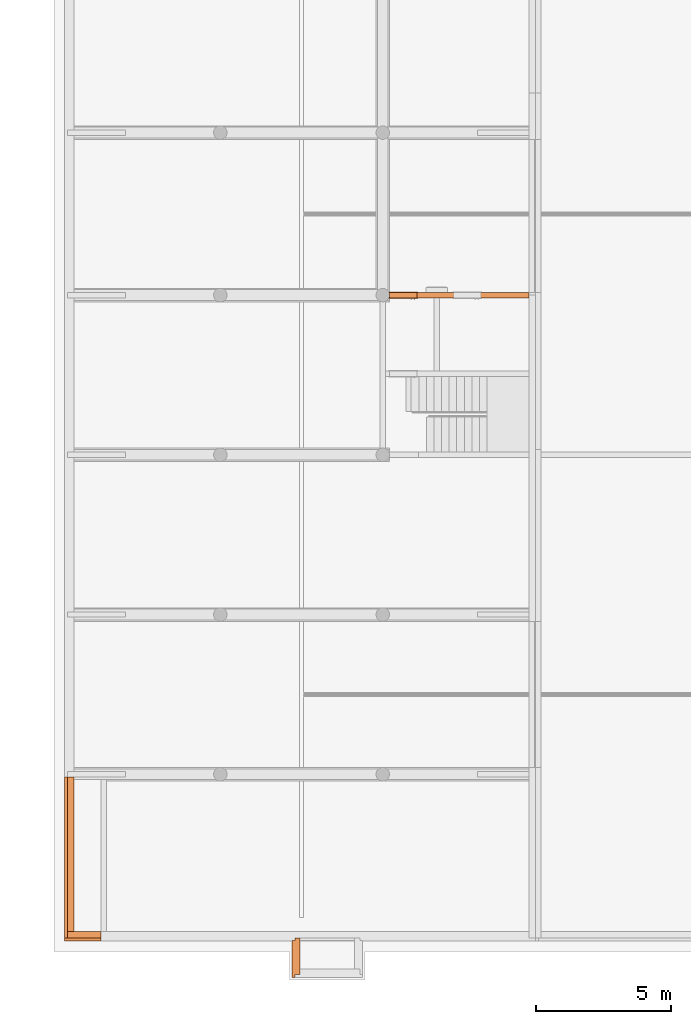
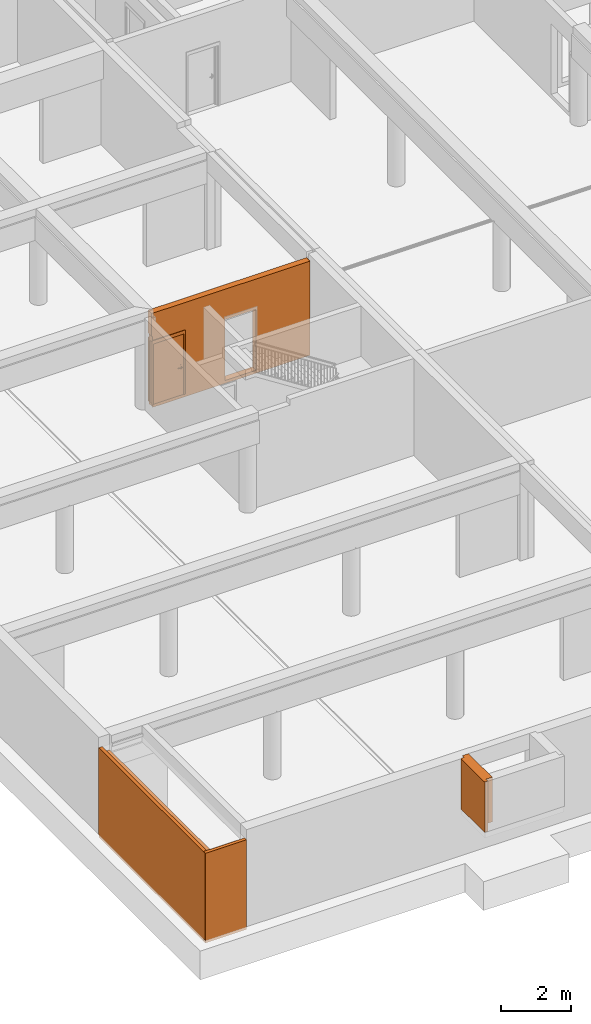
# One storey, part 21 of 25: 5 proxies, 2 openings.
"""IFC2X3 building model written with IfcOpenShell, lengths in millimetres."""

from ifc_helpers import new_model, entity, si_unit, converted_unit, derived_unit, money_unit, direction, frame, origin_with_axes, origin_2d_with_axis, place, context, subcontext, project, spatial, rectangle, extrude, open_shell, faceted_brep, surface_model, source, transform, mapped, material, material_list, type_object, element, fill, save


model = new_model("IFC2X3")

# Units and contexts
model_context = context("Model", 3, precision=0.01, world=origin_with_axes(), true_north=direction((0.34421633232, 0.938890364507)))
body_context = subcontext(model_context, "Body", "Model", "MODEL_VIEW")
ifc_project = project(units=[si_unit("LENGTHUNIT", "METRE", prefix="MILLI"), si_unit("AREAUNIT", "SQUARE_METRE"), si_unit("VOLUMEUNIT", "CUBIC_METRE"), converted_unit("PLANEANGLEUNIT", "DEGREE", entity("IfcPlaneAngleMeasure", 0.0174532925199), si_unit("PLANEANGLEUNIT", "RADIAN"), dimensions=[0, 0, 0, 0, 0, 0, 0]), si_unit("SOLIDANGLEUNIT", "STERADIAN"), money_unit("USD"), converted_unit("TIMEUNIT", "Year", entity("IfcTimeMeasure", 31556926.0), si_unit("TIMEUNIT", "SECOND"), dimensions=[0, 0, 1, 0, 0, 0, 0]), si_unit("MASSUNIT", "GRAM", prefix="KILO"), si_unit("THERMODYNAMICTEMPERATUREUNIT", "DEGREE_CELSIUS"), si_unit("LUMINOUSINTENSITYUNIT", "LUMEN"), si_unit("ENERGYUNIT", "JOULE", prefix="MEGA"), derived_unit("THERMALCONDUCTANCEUNIT", [(si_unit("POWERUNIT", "WATT"), 1), (si_unit("LENGTHUNIT", "METRE"), -1), (si_unit("THERMODYNAMICTEMPERATUREUNIT", "KELVIN"), -1)]), derived_unit("SPECIFICHEATCAPACITYUNIT", [(si_unit("ENERGYUNIT", "JOULE"), 1), (si_unit("MASSUNIT", "GRAM", prefix="KILO"), -1), (si_unit("THERMODYNAMICTEMPERATUREUNIT", "KELVIN"), -1)]), derived_unit("MASSDENSITYUNIT", [(si_unit("MASSUNIT", "GRAM", prefix="KILO"), 1), (si_unit("VOLUMEUNIT", "CUBIC_METRE"), -1)])], contexts=[model_context])

# Site, building, storey
site_placement = place(None, origin_with_axes())
site = spatial("IfcSite", under=ifc_project, at=site_placement, Name="USTRONIE MORSKIE", CompositionType="ELEMENT")
building_placement = place(site_placement, origin_with_axes())
building = spatial("IfcBuilding", under=site, at=building_placement, Name="Budynek", CompositionType="ELEMENT")
storey_placement = place(building_placement, frame((0.0, 0.0, -3600.0), z_axis=(0.0, 0.0, 1.0), x_axis=(1.0, 0.0, 0.0)))
storey = spatial("IfcBuildingStorey", under=building, at=storey_placement, Name="GARAZ", CompositionType="ELEMENT", Elevation=-3600.0)

# Proxy
ifc_material_1 = material(Name="Beton konstrukcyjny 01")
ifc_material_2 = material(Name="Płyty styropianowe twarde HIGH-PRIORITY")
ifc_material_3 = material(Name="Membrana przeciwwilgociowa")
ifc_material_list_1 = material_list([ifc_material_1, ifc_material_2, ifc_material_3])
building_element_proxy_type_1 = type_object("IfcBuildingElementProxyType", Name="20+10 GARAŻ 310", PredefinedType="NOTDEFINED")
proxy_1_placement = place(storey_placement, frame((358517.920919, 709201.199036, 1620.0), z_axis=(0.0, 0.0, 1.0), x_axis=(0.0, -1.0, 0.0)))
element("IfcBuildingElementProxy", 1, at=proxy_1_placement, inside=storey, type_object=building_element_proxy_type_1, material=ifc_material_list_1, Name="Œciana-006", context=body_context, shape_type="Brep", body=[
    faceted_brep([(1500.0, 0.0, 200.000303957), (149.99999553, 0.0, 200.000303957), (150.0, 0.0, 1750.0), (1500.0, 0.0, 1750.0), (149.99999553, -200.0, 200.000303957), (1500.0, -200.0, 200.000303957), (150.0, -200.0, 1750.0), (1500.0, -200.0, 1750.0)], [[[0, 1, 2, 3]], [[4, 1, 0, 5]], [[1, 4, 6, 2]], [[7, 3, 2, 6]], [[5, 0, 3, 7]], [[4, 5, 7, 6]]]),
    faceted_brep([(1600.0, -300.0, 0.0), (250.0, -300.0, 0.0), (250.0, -200.0, 0.0), (1600.0, -200.0, 0.0), (1600.0, -300.0, 1750.0), (250.0, -300.0, 1750.0), (250.0, -200.0, 1750.0), (1600.0, -200.0, 1750.0)], [[[0, 1, 2, 3]], [[4, 5, 1, 0]], [[2, 1, 5, 6]], [[3, 2, 6, 7]], [[3, 7, 4, 0]], [[7, 6, 5, 4]]]),
    faceted_brep([(1610.0, -310.0, 0.0), (260.0, -310.0, 0.0), (260.0, -300.0, 0.0), (1610.0, -300.0, 0.0), (1610.0, -310.0, 1750.0), (260.0, -310.0, 1750.0), (260.0, -300.0, 1750.0), (1610.0, -300.0, 1750.0)], [[[0, 1, 2, 3]], [[4, 5, 1, 0]], [[2, 1, 5, 6]], [[3, 2, 6, 7]], [[3, 7, 4, 0]], [[7, 6, 5, 4]]]),
])

# Proxies, openings
building_element_proxy_type_2 = type_object("IfcBuildingElementProxyType", Name="Beton konstrukcyjny 01 200", PredefinedType="NOTDEFINED")
proxy_2_placement = place(storey_placement, frame((367067.920919, 732801.199036, -100.0), z_axis=(0.0, 0.0, 1.0), x_axis=(-1.0, 0.0, 0.0)))
proxy_2 = element("IfcBuildingElementProxy", 2, at=proxy_2_placement, inside=storey, type_object=building_element_proxy_type_2, material=ifc_material_1, Name="SW-01", context=body_context, shape_type="Brep", body=[
    faceted_brep([(5271.8359576, 100.0, 0.0), (5265.0768448, 85.5050358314, 0.0), (5253.79806175, 43.4120444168, 0.0), (5250.0, 0.0, 0.0), (5253.79806175, -43.4120444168, 0.0), (5265.0768448, -85.5050358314, 0.0), (5271.8359576, -100.0, 0.0), (100.0, -100.0, 0.0), (100.0, 100.0, 0.0), (5265.0768448, 85.5050358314, 2470.00030619), (5271.8359576, 100.0, 2470.00030619), (5253.79806175, 43.4120444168, 2470.00030619), (5250.0, 0.0, 2470.00030619), (5253.79806175, -43.4120444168, 2470.00030619), (5265.0768448, -85.5050358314, 2470.00030619), (5271.8359576, -99.9999999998, 2470.00030619), (5300.0, -99.9999999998, 2470.00030619), (5300.00000447, -99.9999999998, 3220.00030172), (5300.00000477, -100.0, 3270.0), (102.21928236, -99.9999999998, 3270.0), (102.21928236, -99.9999999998, 3280.0), (100.0, -100.0, 3280.0), (100.0, 100.0, 3280.0), (5300.0, 100.0, 2470.00030619), (102.246101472, 100.0, 3280.0), (102.246101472, 100.0, 3270.0), (5300.00000477, 100.0, 3270.0), (5300.00000447, 100.0, 3220.00030172)], [[[0, 1, 2, 3, 4, 5, 6, 7, 8]], [[9, 1, 0, 10]], [[11, 2, 1, 9]], [[12, 3, 2, 11]], [[13, 4, 3, 12]], [[14, 5, 4, 13]], [[15, 6, 5, 14]], [[6, 15, 16, 17, 18, 19, 20, 21, 7]], [[7, 21, 22, 8]], [[23, 10, 0, 8, 22, 24, 25, 26, 27]], [[23, 16, 15, 14, 13, 12, 11, 9, 10]], [[17, 16, 23, 27]], [[17, 27, 26, 18]], [[25, 19, 18, 26]], [[20, 19, 25, 24]], [[24, 22, 21, 20]]]),
])
opening_1_placement = place(proxy_2_placement, frame((4750.0, 0.0, 100.0), z_axis=(0.0, 0.0, 1.0), x_axis=(1.0, 0.0, 0.0)))
opening_1 = element("IfcOpeningElement", 3, at=opening_1_placement, cuts=proxy_2, Name="Dw01", context=body_context, shape_type="SweptSolid", body=[
    extrude(rectangle(XDim=1020.0, YDim=2120.0, at=origin_2d_with_axis()), frame((0.0, -200.0, 1060.0), z_axis=(0.0, 1.0, 0.0), x_axis=(1.0, 0.0, 0.0)), (0.0, 0.0, 1.0), 600.0),
    extrude(rectangle(XDim=1094.0, YDim=2227.0, at=origin_2d_with_axis()), frame((0.0, -100.0, 1113.5), z_axis=(0.0, 1.0, 0.0), x_axis=(1.0, 0.0, 0.0)), (0.0, 0.0, -1.0), 200.0),
    extrude(rectangle(XDim=1094.0, YDim=2227.0, at=origin_2d_with_axis()), frame((0.0, 100.0, 1113.5), z_axis=(0.0, -1.0, 0.0), x_axis=(1.0, 0.0, 0.0)), (0.0, 0.0, -1.0), 200.0),
])
opening_2_placement = place(proxy_2_placement, frame((2380.0, 0.0, 100.0), z_axis=(0.0, 0.0, 1.0), x_axis=(1.0, 0.0, 0.0)))
element("IfcOpeningElement", 4, at=opening_2_placement, cuts=proxy_2, Name="Dw02", context=body_context, shape_type="SweptSolid", body=[
    extrude(rectangle(XDim=1020.0, YDim=2120.0, at=origin_2d_with_axis()), frame((0.0, -200.0, 1060.0), z_axis=(0.0, 1.0, 0.0), x_axis=(1.0, 0.0, 0.0)), (0.0, 0.0, 1.0), 600.0),
    extrude(rectangle(XDim=1094.0, YDim=2227.0, at=origin_2d_with_axis()), frame((0.0, -100.0, 1113.5), z_axis=(0.0, 1.0, 0.0), x_axis=(1.0, 0.0, 0.0)), (0.0, 0.0, -1.0), 200.0),
    extrude(rectangle(XDim=1094.0, YDim=2227.0, at=origin_2d_with_axis()), frame((0.0, 100.0, 1113.5), z_axis=(0.0, -1.0, 0.0), x_axis=(1.0, 0.0, 0.0)), (0.0, 0.0, -1.0), 200.0),
])
building_element_proxy_type_3 = type_object("IfcBuildingElementProxyType", Name="Drzwi 23", PredefinedType="NOTDEFINED")
shared_shape = source(origin_with_axes(), body_context, "Body", "SurfaceModel", [
    faceted_brep([(-510.0, -115.0, 0.0), (-485.0, -115.0, 0.0), (-485.0, -200.0, 0.0), (-510.0, -200.0, 0.0), (-510.0, -115.0, 2120.0), (-485.0, -115.0, 2095.0), (-485.0, -200.0, 2095.0), (-510.0, -200.0, 2120.0)], [[[0, 1, 2, 3]], [[0, 4, 5, 1]], [[1, 5, 6, 2]], [[3, 2, 6, 7]], [[4, 0, 3, 7]], [[5, 4, 7, 6]]]),
    faceted_brep([(510.0, -115.0, 2120.0), (485.0, -115.0, 2095.0), (485.0, -200.0, 2095.0), (510.0, -200.0, 2120.0), (510.0, -115.0, 0.0), (485.0, -115.0, 0.0), (485.0, -200.0, 0.0), (510.0, -200.0, 0.0)], [[[0, 1, 2, 3]], [[0, 4, 5, 1]], [[1, 5, 6, 2]], [[3, 2, 6, 7]], [[4, 0, 3, 7]], [[5, 4, 7, 6]]]),
    faceted_brep([(-485.0, -115.0, 2095.0), (485.0, -115.0, 2095.0), (485.0, -200.0, 2095.0), (-485.0, -200.0, 2095.0), (-510.0, -115.0, 2120.0), (510.0, -115.0, 2120.0), (510.0, -200.0, 2120.0), (-510.0, -200.0, 2120.0)], [[[0, 1, 2, 3]], [[0, 4, 5, 1]], [[1, 5, 6, 2]], [[3, 2, 6, 7]], [[4, 0, 3, 7]], [[5, 4, 7, 6]]]),
    faceted_brep([(-547.0, -219.0, 0.0), (-547.0, -200.0, 0.0), (-497.0, -200.0, 0.0), (-497.0, -219.0, 0.0), (-547.0, -219.0, 2227.0), (-547.0, -200.0, 2227.0), (-497.0, -200.0, 2107.0), (-497.0, -219.0, 2107.0)], [[[0, 1, 2, 3]], [[4, 5, 1, 0]], [[1, 5, 6, 2]], [[3, 2, 6, 7]], [[0, 3, 7, 4]], [[7, 6, 5, 4]]]),
    faceted_brep([(547.0, -219.0, 2227.0), (547.0, -200.0, 2227.0), (497.0, -200.0, 2107.0), (497.0, -219.0, 2107.0), (547.0, -219.0, 0.0), (547.0, -200.0, 0.0), (497.0, -200.0, 0.0), (497.0, -219.0, 0.0)], [[[0, 1, 2, 3]], [[4, 5, 1, 0]], [[1, 5, 6, 2]], [[3, 2, 6, 7]], [[0, 3, 7, 4]], [[7, 6, 5, 4]]]),
    faceted_brep([(-547.0, -219.0, 2227.0), (-547.0, -200.0, 2227.0), (-497.0, -200.0, 2107.0), (-497.0, -219.0, 2107.0), (547.0, -219.0, 2227.0), (547.0, -200.0, 2227.0), (497.0, -200.0, 2107.0), (497.0, -219.0, 2107.0)], [[[0, 1, 2, 3]], [[4, 5, 1, 0]], [[1, 5, 6, 2]], [[3, 2, 6, 7]], [[0, 3, 7, 4]], [[7, 6, 5, 4]]]),
    faceted_brep([(-547.0, 19.0, 0.0), (-497.0, 19.0, 0.0), (-497.0, 0.0, 0.0), (-547.0, 0.0, 0.0), (-547.0, 19.0, 2227.0), (-497.0, 19.0, 2107.0), (-497.0, 0.0, 2107.0), (-547.0, 0.0, 2227.0)], [[[0, 1, 2, 3]], [[0, 4, 5, 1]], [[1, 5, 6, 2]], [[3, 2, 6, 7]], [[4, 0, 3, 7]], [[5, 4, 7, 6]]]),
    faceted_brep([(547.0, 19.0, 2227.0), (497.0, 19.0, 2107.0), (497.0, 0.0, 2107.0), (547.0, 0.0, 2227.0), (547.0, 19.0, 0.0), (497.0, 19.0, 0.0), (497.0, 0.0, 0.0), (547.0, 0.0, 0.0)], [[[0, 1, 2, 3]], [[0, 4, 5, 1]], [[1, 5, 6, 2]], [[3, 2, 6, 7]], [[4, 0, 3, 7]], [[5, 4, 7, 6]]]),
    faceted_brep([(-547.0, 19.0, 2227.0), (-497.0, 19.0, 2107.0), (-497.0, 0.0, 2107.0), (-547.0, 0.0, 2227.0), (547.0, 19.0, 2227.0), (497.0, 19.0, 2107.0), (497.0, 0.0, 2107.0), (547.0, 0.0, 2227.0)], [[[0, 1, 2, 3]], [[0, 4, 5, 1]], [[1, 5, 6, 2]], [[3, 2, 6, 7]], [[4, 0, 3, 7]], [[5, 4, 7, 6]]]),
    faceted_brep([(-450.0, -40.0, 0.0), (-450.0, -40.0, 2050.0), (-450.0, -115.0, 2050.0), (-450.0, -115.0, 0.0), (-462.0, -40.0, 2050.0), (-462.0, -40.0, 0.0), (-462.0, 0.0, 2050.0), (-510.0, 0.0, 2050.0), (-510.0, -115.0, 2050.0), (-510.0, -115.0, 0.0), (-510.0, 0.0, 0.0), (-462.0, 0.0, 0.0)], [[[0, 1, 2, 3]], [[4, 1, 0, 5]], [[4, 6, 7, 8, 2, 1]], [[3, 2, 8, 9]], [[5, 0, 3, 9, 10, 11]], [[6, 4, 5, 11]], [[6, 11, 10, 7]], [[10, 9, 8, 7]]]),
    faceted_brep([(462.0, -40.0, 2050.0), (450.0, -40.0, 2050.0), (450.0, -115.0, 2050.0), (510.0, -115.0, 2050.0), (510.0, 0.0, 2050.0), (462.0, 0.0, 2050.0), (462.0, -40.0, 0.0), (450.0, -40.0, 0.0), (450.0, -115.0, 0.0), (510.0, -115.0, 0.0), (510.0, 0.0, 0.0), (462.0, 0.0, 0.0)], [[[0, 1, 2, 3, 4, 5]], [[1, 0, 6, 7]], [[1, 7, 8, 2]], [[3, 2, 8, 9]], [[4, 3, 9, 10]], [[11, 5, 4, 10]], [[0, 5, 11, 6]], [[6, 11, 10, 9, 8, 7]]]),
    faceted_brep([(-462.0, 0.0, 2062.0), (-462.0, 0.0, 2050.0), (-510.0, 0.0, 2050.0), (-510.0, 0.0, 2120.0), (510.0, 0.0, 2120.0), (510.0, 0.0, 2050.0), (462.0, 0.0, 2050.0), (462.0, 0.0, 2062.0), (-462.0, -40.0, 2062.0), (-462.0, -40.0, 2050.0), (-450.0, -40.0, 2050.0), (-450.0, -115.0, 2050.0), (-510.0, -115.0, 2050.0), (-510.0, -115.0, 2120.0), (510.0, -115.0, 2120.0), (510.0, -115.0, 2050.0), (462.0, -40.0, 2050.0), (450.0, -115.0, 2050.0), (450.0, -40.0, 2050.0), (462.0, -40.0, 2062.0)], [[[0, 1, 2, 3, 4, 5, 6, 7]], [[1, 0, 8, 9]], [[9, 10, 11, 12, 2, 1]], [[2, 12, 13, 3]], [[3, 13, 14, 4]], [[4, 14, 15, 5]], [[16, 6, 5, 15, 17, 18]], [[7, 6, 16, 19]], [[0, 7, 19, 8]], [[16, 18, 10, 9, 8, 19]], [[10, 18, 17, 11]], [[17, 15, 14, 13, 12, 11]]]),
    faceted_brep([(-440.5, -40.0, 1060.0), (-440.5, -43.0, 1060.0), (-383.5, -43.0, 1060.0), (-383.5, -40.0, 1060.0), (-440.5, -40.0, 870.0), (-440.5, -43.0, 870.0), (-383.5, -43.0, 870.0), (-383.5, -40.0, 870.0)], [[[0, 1, 2, 3]], [[4, 5, 1, 0]], [[1, 5, 6, 2]], [[3, 2, 6, 7]], [[0, 3, 7, 4]], [[7, 6, 5, 4]]]),
    faceted_brep([(-412.0, -104.0, 990.0), (-412.0, -111.0, 990.0), (-417.0, -111.0, 991.339745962), (-417.0, -104.0, 991.339745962), (-387.0, -104.0, 990.0), (-387.0, -111.0, 990.0), (-387.0, -111.0, 1010.0), (-412.0, -111.0, 1010.0), (-417.0, -111.0, 1008.66025404), (-420.660254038, -111.0, 1005.0), (-422.0, -111.0, 1000.0), (-420.660254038, -111.0, 995.0), (-420.660254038, -104.0, 995.0), (-422.0, -104.0, 1000.0), (-420.660254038, -104.0, 1005.0), (-417.0, -104.0, 1008.66025404), (-412.0, -104.0, 1010.0), (-387.0, -104.0, 1010.0)], [[[0, 1, 2, 3]], [[4, 5, 1, 0]], [[1, 5, 6, 7, 8, 9, 10, 11, 2]], [[3, 2, 11, 12]], [[0, 3, 12, 13, 14, 15, 16, 17, 4]], [[17, 6, 5, 4]], [[16, 7, 6, 17]], [[15, 8, 7, 16]], [[14, 9, 8, 15]], [[13, 10, 9, 14]], [[12, 11, 10, 13]]]),
    surface_model("IfcShellBasedSurfaceModel", [(-387.0, -104.0, 1010.0), (-373.596090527, -111.0, 1009.60730092), (-373.901717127, -104.0, 1009.60730092), (-387.0, -111.0, 1010.0), (-346.890283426, -108.663544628, 1008.82190275), (-373.901717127, -104.0, 990.392699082), (-387.0, -104.0, 990.0), (-387.0, -111.0, 990.0), (-373.596090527, -111.0, 990.392699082), (-346.890283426, -108.663544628, 991.178097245), (-347.804837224, -101.716818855, 1008.82190275), (-347.804837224, -101.716818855, 991.178097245), (-320.489735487, -104.008415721, 991.963495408), (-320.489735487, -104.008415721, 1008.03650459), (-322.006256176, -97.1678329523, 1008.03650459), (-322.006256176, -97.1678329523, 991.963495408), (-294.59537082, -97.0700416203, 992.748893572), (-294.59537082, -97.0700416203, 1007.25110643), (-296.702316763, -90.3876628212, 1007.25110643), (-296.702316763, -90.3876628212, 992.748893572), (-286.538795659, -94.1376880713, 993.0), (-286.538795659, -94.1376880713, 1007.0), (-288.829442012, -87.5221707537, 1007.0), (-288.829442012, -87.5221707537, 993.0)], [open_shell([[[0, 1, 2]], [[0, 3, 1]], [[2, 1, 4]], [[0, 2, 5, 6]], [[3, 7, 8, 1]], [[1, 8, 9, 4]], [[2, 4, 10]], [[2, 10, 11, 5]], [[5, 7, 6]], [[5, 8, 7]], [[11, 9, 8]], [[4, 9, 12, 13]], [[10, 4, 13]], [[10, 14, 15, 11]], [[11, 8, 5]], [[15, 9, 11]], [[15, 12, 9]], [[13, 12, 16, 17]], [[10, 13, 14]], [[14, 18, 19, 15]], [[19, 12, 15]], [[19, 16, 12]], [[17, 16, 20, 21]], [[14, 13, 17]], [[14, 17, 18]], [[18, 22, 23, 19]], [[23, 16, 19]], [[23, 20, 16]], [[22, 21, 20, 23]], [[18, 17, 21]], [[18, 21, 22]]])]),
    faceted_brep([(-401.607695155, -53.0, 994.0), (-400.741669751, -43.0, 993.5), (-399.0, -43.0, 1000.0), (-400.0, -53.0, 1000.0), (-406.0, -53.0, 989.607695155), (-405.5, -43.0, 988.741669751), (-412.0, -43.0, 987.0), (-418.5, -43.0, 988.741669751), (-423.258330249, -43.0, 993.5), (-425.0, -43.0, 1000.0), (-423.258330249, -43.0, 1006.5), (-418.5, -43.0, 1011.25833025), (-412.0, -43.0, 1013.0), (-405.5, -43.0, 1011.25833025), (-400.741669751, -43.0, 1006.5), (-401.607695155, -53.0, 1006.0), (-406.0, -53.0, 1010.39230485), (-412.0, -53.0, 1012.0), (-418.0, -53.0, 1010.39230485), (-422.392304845, -53.0, 1006.0), (-424.0, -53.0, 1000.0), (-422.392304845, -53.0, 994.0), (-418.0, -53.0, 989.607695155), (-412.0, -53.0, 988.0)], [[[0, 1, 2, 3]], [[4, 5, 1, 0]], [[2, 1, 5, 6, 7, 8, 9, 10, 11, 12, 13, 14]], [[3, 2, 14, 15]], [[3, 15, 16, 17, 18, 19, 20, 21, 22, 23, 4, 0]], [[23, 6, 5, 4]], [[22, 7, 6, 23]], [[21, 8, 7, 22]], [[20, 9, 8, 21]], [[19, 10, 9, 20]], [[18, 11, 10, 19]], [[17, 12, 11, 18]], [[16, 13, 12, 17]], [[15, 14, 13, 16]]]),
    faceted_brep([(-394.679491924, -47.0, 895.0), (-392.947441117, -43.0, 894.0), (-390.0, -43.0, 905.0), (-392.0, -47.0, 905.0), (-402.0, -47.0, 887.679491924), (-401.0, -43.0, 885.947441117), (-412.0, -43.0, 883.0), (-423.0, -43.0, 885.947441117), (-431.052558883, -43.0, 894.0), (-434.0, -43.0, 905.0), (-431.052558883, -43.0, 916.0), (-423.0, -43.0, 924.052558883), (-412.0, -43.0, 927.0), (-401.0, -43.0, 924.052558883), (-392.947441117, -43.0, 916.0), (-394.679491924, -47.0, 915.0), (-402.0, -47.0, 922.320508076), (-412.0, -47.0, 925.0), (-422.0, -47.0, 922.320508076), (-429.320508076, -47.0, 915.0), (-432.0, -47.0, 905.0), (-429.320508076, -47.0, 895.0), (-422.0, -47.0, 887.679491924), (-412.0, -47.0, 885.0)], [[[0, 1, 2, 3]], [[4, 5, 1, 0]], [[2, 1, 5, 6, 7, 8, 9, 10, 11, 12, 13, 14]], [[3, 2, 14, 15]], [[3, 15, 16, 17, 18, 19, 20, 21, 22, 23, 4, 0]], [[23, 6, 5, 4]], [[22, 7, 6, 23]], [[21, 8, 7, 22]], [[20, 9, 8, 21]], [[19, 10, 9, 20]], [[18, 11, 10, 19]], [[17, 12, 11, 18]], [[16, 13, 12, 17]], [[15, 14, 13, 16]]]),
    faceted_brep([(-407.050252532, -49.0, 909.050252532), (-406.343145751, -47.0, 908.343145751), (-404.0, -47.0, 914.0), (-405.0, -49.0, 914.0), (-412.0, -49.0, 907.0), (-412.0, -47.0, 906.0), (-417.656854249, -47.0, 908.343145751), (-420.0, -47.0, 914.0), (-417.656854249, -47.0, 919.656854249), (-412.0, -47.0, 922.0), (-406.343145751, -47.0, 919.656854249), (-407.050252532, -49.0, 918.949747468), (-412.0, -49.0, 921.0), (-416.949747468, -49.0, 918.949747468), (-419.0, -49.0, 914.0), (-416.949747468, -49.0, 909.050252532)], [[[0, 1, 2, 3]], [[4, 5, 1, 0]], [[2, 1, 5, 6, 7, 8, 9, 10]], [[3, 2, 10, 11]], [[3, 11, 12, 13, 14, 15, 4, 0]], [[15, 6, 5, 4]], [[14, 7, 6, 15]], [[13, 8, 7, 14]], [[12, 9, 8, 13]], [[11, 10, 9, 12]]]),
    faceted_brep([(-412.0, -53.0, 1010.0), (-412.0, -104.0, 1010.0), (-407.0, -104.0, 1008.66025404), (-407.0, -53.0, 1008.66025404), (-417.0, -53.0, 1008.66025404), (-417.0, -104.0, 1008.66025404), (-420.660254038, -104.0, 1005.0), (-422.0, -104.0, 1000.0), (-420.660254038, -104.0, 995.0), (-417.0, -104.0, 991.339745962), (-412.0, -104.0, 990.0), (-407.0, -104.0, 991.339745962), (-403.339745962, -104.0, 995.0), (-402.0, -104.0, 1000.0), (-403.339745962, -104.0, 1005.0), (-403.339745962, -53.0, 1005.0), (-402.0, -53.0, 1000.0), (-403.339745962, -53.0, 995.0), (-407.0, -53.0, 991.339745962), (-412.0, -53.0, 990.0), (-417.0, -53.0, 991.339745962), (-420.660254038, -53.0, 995.0), (-422.0, -53.0, 1000.0), (-420.660254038, -53.0, 1005.0)], [[[0, 1, 2, 3]], [[4, 5, 1, 0]], [[1, 5, 6, 7, 8, 9, 10, 11, 12, 13, 14, 2]], [[3, 2, 14, 15]], [[0, 3, 15, 16, 17, 18, 19, 20, 21, 22, 23, 4]], [[23, 6, 5, 4]], [[22, 7, 6, 23]], [[21, 8, 7, 22]], [[20, 9, 8, 21]], [[19, 10, 9, 20]], [[18, 11, 10, 19]], [[17, 12, 11, 18]], [[16, 13, 12, 17]], [[15, 14, 13, 16]]]),
    faceted_brep([(-440.5, 0.0, 1060.0), (-383.5, 0.0, 1060.0), (-383.5, 3.0, 1060.0), (-440.5, 3.0, 1060.0), (-440.5, 0.0, 870.0), (-383.5, 0.0, 870.0), (-383.5, 3.0, 870.0), (-440.5, 3.0, 870.0)], [[[0, 1, 2, 3]], [[0, 4, 5, 1]], [[1, 5, 6, 2]], [[3, 2, 6, 7]], [[4, 0, 3, 7]], [[5, 4, 7, 6]]]),
    faceted_brep([(-412.0, 64.0, 990.0), (-417.0, 64.0, 991.339745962), (-417.0, 71.0, 991.339745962), (-412.0, 71.0, 990.0), (-387.0, 64.0, 990.0), (-387.0, 64.0, 1010.0), (-412.0, 64.0, 1010.0), (-417.0, 64.0, 1008.66025404), (-420.660254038, 64.0, 1005.0), (-422.0, 64.0, 1000.0), (-420.660254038, 64.0, 995.0), (-420.660254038, 71.0, 995.0), (-422.0, 71.0, 1000.0), (-420.660254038, 71.0, 1005.0), (-417.0, 71.0, 1008.66025404), (-412.0, 71.0, 1010.0), (-387.0, 71.0, 1010.0), (-387.0, 71.0, 990.0)], [[[0, 1, 2, 3]], [[0, 4, 5, 6, 7, 8, 9, 10, 1]], [[1, 10, 11, 2]], [[3, 2, 11, 12, 13, 14, 15, 16, 17]], [[4, 0, 3, 17]], [[5, 4, 17, 16]], [[6, 5, 16, 15]], [[7, 6, 15, 14]], [[8, 7, 14, 13]], [[9, 8, 13, 12]], [[10, 9, 12, 11]]]),
    surface_model("IfcShellBasedSurfaceModel", [(-387.0, 64.0, 1010.0), (-373.901717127, 64.0, 1009.60730092), (-373.596090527, 71.0, 1009.60730092), (-387.0, 64.0, 990.0), (-373.901717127, 64.0, 990.392699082), (-346.890283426, 68.6635446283, 1008.82190275), (-387.0, 71.0, 1010.0), (-387.0, 71.0, 990.0), (-347.804837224, 61.716818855, 991.178097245), (-347.804837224, 61.716818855, 1008.82190275), (-346.890283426, 68.6635446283, 991.178097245), (-373.596090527, 71.0, 990.392699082), (-322.006256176, 57.1678329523, 991.963495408), (-322.006256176, 57.1678329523, 1008.03650459), (-320.489735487, 64.0084157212, 1008.03650459), (-320.489735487, 64.0084157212, 991.963495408), (-296.702316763, 50.3876628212, 992.748893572), (-296.702316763, 50.3876628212, 1007.25110643), (-294.59537082, 57.0700416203, 1007.25110643), (-294.59537082, 57.0700416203, 992.748893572), (-288.829442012, 47.5221707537, 993.0), (-288.829442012, 47.5221707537, 1007.0), (-286.538795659, 54.1376880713, 1007.0), (-286.538795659, 54.1376880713, 993.0)], [open_shell([[[0, 1, 2]], [[0, 3, 4, 1]], [[1, 5, 2]], [[0, 2, 6]], [[4, 3, 7]], [[1, 4, 8, 9]], [[1, 9, 5]], [[2, 5, 10, 11]], [[6, 2, 11, 7]], [[4, 7, 11]], [[8, 4, 11]], [[9, 8, 12, 13]], [[9, 14, 5]], [[5, 14, 15, 10]], [[8, 11, 10]], [[12, 8, 10]], [[13, 12, 16, 17]], [[9, 13, 14]], [[14, 18, 19, 15]], [[12, 10, 15]], [[16, 12, 15]], [[17, 16, 20, 21]], [[13, 17, 18]], [[13, 18, 14]], [[18, 22, 23, 19]], [[16, 15, 19]], [[20, 16, 19]], [[21, 20, 23, 22]], [[17, 21, 22]], [[17, 22, 18]], [[20, 19, 23]]])]),
    faceted_brep([(-401.607695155, 13.0, 994.0), (-400.0, 13.0, 1000.0), (-399.0, 3.0, 1000.0), (-400.741669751, 3.0, 993.5), (-406.0, 13.0, 989.607695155), (-412.0, 13.0, 988.0), (-418.0, 13.0, 989.607695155), (-422.392304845, 13.0, 994.0), (-424.0, 13.0, 1000.0), (-422.392304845, 13.0, 1006.0), (-418.0, 13.0, 1010.39230485), (-412.0, 13.0, 1012.0), (-406.0, 13.0, 1010.39230485), (-401.607695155, 13.0, 1006.0), (-400.741669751, 3.0, 1006.5), (-405.5, 3.0, 1011.25833025), (-412.0, 3.0, 1013.0), (-418.5, 3.0, 1011.25833025), (-423.258330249, 3.0, 1006.5), (-425.0, 3.0, 1000.0), (-423.258330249, 3.0, 993.5), (-418.5, 3.0, 988.741669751), (-412.0, 3.0, 987.0), (-405.5, 3.0, 988.741669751)], [[[0, 1, 2, 3]], [[1, 0, 4, 5, 6, 7, 8, 9, 10, 11, 12, 13]], [[1, 13, 14, 2]], [[2, 14, 15, 16, 17, 18, 19, 20, 21, 22, 23, 3]], [[4, 0, 3, 23]], [[5, 4, 23, 22]], [[6, 5, 22, 21]], [[7, 6, 21, 20]], [[8, 7, 20, 19]], [[9, 8, 19, 18]], [[10, 9, 18, 17]], [[11, 10, 17, 16]], [[12, 11, 16, 15]], [[13, 12, 15, 14]]]),
    faceted_brep([(-394.679491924, 7.0, 895.0), (-392.0, 7.0, 905.0), (-390.0, 3.0, 905.0), (-392.947441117, 3.0, 894.0), (-402.0, 7.0, 887.679491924), (-412.0, 7.0, 885.0), (-422.0, 7.0, 887.679491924), (-429.320508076, 7.0, 895.0), (-432.0, 7.0, 905.0), (-429.320508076, 7.0, 915.0), (-422.0, 7.0, 922.320508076), (-412.0, 7.0, 925.0), (-402.0, 7.0, 922.320508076), (-394.679491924, 7.0, 915.0), (-392.947441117, 3.0, 916.0), (-401.0, 3.0, 924.052558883), (-412.0, 3.0, 927.0), (-423.0, 3.0, 924.052558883), (-431.052558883, 3.0, 916.0), (-434.0, 3.0, 905.0), (-431.052558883, 3.0, 894.0), (-423.0, 3.0, 885.947441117), (-412.0, 3.0, 883.0), (-401.0, 3.0, 885.947441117)], [[[0, 1, 2, 3]], [[1, 0, 4, 5, 6, 7, 8, 9, 10, 11, 12, 13]], [[1, 13, 14, 2]], [[2, 14, 15, 16, 17, 18, 19, 20, 21, 22, 23, 3]], [[4, 0, 3, 23]], [[5, 4, 23, 22]], [[6, 5, 22, 21]], [[7, 6, 21, 20]], [[8, 7, 20, 19]], [[9, 8, 19, 18]], [[10, 9, 18, 17]], [[11, 10, 17, 16]], [[12, 11, 16, 15]], [[13, 12, 15, 14]]]),
    faceted_brep([(-407.050252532, 9.0, 909.050252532), (-405.0, 9.0, 914.0), (-404.0, 7.0, 914.0), (-406.343145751, 7.0, 908.343145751), (-412.0, 9.0, 907.0), (-416.949747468, 9.0, 909.050252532), (-419.0, 9.0, 914.0), (-416.949747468, 9.0, 918.949747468), (-412.0, 9.0, 921.0), (-407.050252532, 9.0, 918.949747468), (-406.343145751, 7.0, 919.656854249), (-412.0, 7.0, 922.0), (-417.656854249, 7.0, 919.656854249), (-420.0, 7.0, 914.0), (-417.656854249, 7.0, 908.343145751), (-412.0, 7.0, 906.0)], [[[0, 1, 2, 3]], [[1, 0, 4, 5, 6, 7, 8, 9]], [[1, 9, 10, 2]], [[2, 10, 11, 12, 13, 14, 15, 3]], [[4, 0, 3, 15]], [[5, 4, 15, 14]], [[6, 5, 14, 13]], [[7, 6, 13, 12]], [[8, 7, 12, 11]], [[9, 8, 11, 10]]]),
    faceted_brep([(-412.0, 13.0, 1010.0), (-407.0, 13.0, 1008.66025404), (-407.0, 64.0, 1008.66025404), (-412.0, 64.0, 1010.0), (-417.0, 13.0, 1008.66025404), (-420.660254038, 13.0, 1005.0), (-422.0, 13.0, 1000.0), (-420.660254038, 13.0, 995.0), (-417.0, 13.0, 991.339745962), (-412.0, 13.0, 990.0), (-407.0, 13.0, 991.339745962), (-403.339745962, 13.0, 995.0), (-402.0, 13.0, 1000.0), (-403.339745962, 13.0, 1005.0), (-403.339745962, 64.0, 1005.0), (-402.0, 64.0, 1000.0), (-403.339745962, 64.0, 995.0), (-407.0, 64.0, 991.339745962), (-412.0, 64.0, 990.0), (-417.0, 64.0, 991.339745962), (-420.660254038, 64.0, 995.0), (-422.0, 64.0, 1000.0), (-420.660254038, 64.0, 1005.0), (-417.0, 64.0, 1008.66025404)], [[[0, 1, 2, 3]], [[0, 4, 5, 6, 7, 8, 9, 10, 11, 12, 13, 1]], [[1, 13, 14, 2]], [[3, 2, 14, 15, 16, 17, 18, 19, 20, 21, 22, 23]], [[4, 0, 3, 23]], [[5, 4, 23, 22]], [[6, 5, 22, 21]], [[7, 6, 21, 20]], [[8, 7, 20, 19]], [[9, 8, 19, 18]], [[10, 9, 18, 17]], [[11, 10, 17, 16]], [[12, 11, 16, 15]], [[13, 12, 15, 14]]]),
    faceted_brep([(462.0, 0.0, 0.0), (462.0, -40.0, 0.0), (-462.0, -40.0, 0.0), (-462.0, 0.0, 0.0), (462.0, 0.0, 2062.0), (462.0, -40.0, 2062.0), (-462.0, -40.0, 2062.0), (-462.0, 0.0, 2062.0)], [[[0, 1, 2, 3]], [[4, 5, 1, 0]], [[1, 5, 6, 2]], [[3, 2, 6, 7]], [[0, 3, 7, 4]], [[7, 6, 5, 4]]]),
])
proxy_3_placement = place(opening_1_placement, frame((-450.0, 0.0, 0.0), z_axis=(0.0, 0.0, 1.0), x_axis=(1.0, 0.0, 0.0)))
proxy_3 = element("IfcBuildingElementProxy", 5, at=proxy_3_placement, inside=storey, type_object=building_element_proxy_type_3, Name="Dw01", context=body_context, shape_type="MappedRepresentation", body=[
    mapped(shared_shape, transform((450.0, 100.0, 0.0))),
])
fill(opening_1, proxy_3)

# Proxies
building_element_proxy_type_4 = type_object("IfcBuildingElementProxyType", Name="25+10 GARAŻ 360", PredefinedType="NOTDEFINED")
proxy_4_placement = place(storey_placement, frame((350067.920919, 709201.199036, -800.0), z_axis=(0.0, 0.0, 1.0), x_axis=(1.0, 0.0, 0.0)))
element("IfcBuildingElementProxy", 6, at=proxy_4_placement, inside=storey, type_object=building_element_proxy_type_4, material=ifc_material_list_1, Name="SZ-02", context=body_context, shape_type="Brep", body=[
    faceted_brep([(1100.0, 100.0, 700.0), (-150.0, 100.0, 700.0), (-150.0, 100.0, 3620.0), (1100.0, 100.0, 3620.0), (1100.0, -150.0, 700.0), (-150.0, -150.0, 700.0), (-150.0, -150.000003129, 3620.0), (1100.0, -150.000003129, 3620.0)], [[[0, 1, 2, 3]], [[4, 5, 1, 0]], [[1, 5, 6, 2]], [[2, 6, 7, 3]], [[4, 0, 3, 7]], [[5, 4, 7, 6]]]),
    faceted_brep([(1100.0, -250.0, 3819.99999914), (1100.0, -250.0, 700.0), (1100.0, -150.0, 700.0), (1100.0, -150.0, 3819.99999914), (-250.0, -250.0, 3819.99999914), (-250.0, -250.0, 700.0), (-250.0, -150.0, 700.0), (-250.0, -150.0, 3819.99999914)], [[[0, 1, 2, 3]], [[4, 5, 1, 0]], [[5, 6, 2, 1]], [[3, 2, 6, 7]], [[7, 4, 0, 3]], [[7, 6, 5, 4]]]),
    faceted_brep([(1100.0, -260.0, 800.0), (1100.0, -250.0, 800.0), (1100.0, -250.0, 3819.99999914), (1100.0, -260.0, 3819.99999914), (-260.0, -250.0, 800.0), (-260.0, -260.0, 800.0), (-260.0, -250.0, 3819.99999914), (-260.0, -260.0, 3819.99999914)], [[[0, 1, 2, 3]], [[4, 1, 0, 5]], [[1, 4, 6, 2]], [[7, 3, 2, 6]], [[5, 0, 3, 7]], [[4, 5, 7, 6]]]),
])
ifc_material_list_2 = material_list([ifc_material_3, ifc_material_2, ifc_material_1])
proxy_5_placement = place(storey_placement, frame((350067.920919, 709201.199036, -800.0), z_axis=(0.0, 0.0, 1.0), x_axis=(0.0, 1.0, 0.0)))
element("IfcBuildingElementProxy", 7, at=proxy_5_placement, inside=storey, type_object=building_element_proxy_type_4, material=ifc_material_list_2, Name="SZ-02", context=body_context, shape_type="Brep", body=[
    faceted_brep([(-250.0, 250.0, 800.0), (5800.0, 250.0, 800.0), (5800.0, 250.0, 3819.99999914), (-250.0, 250.0, 3819.99999914), (5800.0, 260.0, 800.0), (-250.0, 260.0, 800.0), (5800.0, 260.0, 3819.99999914), (-250.0, 260.0, 3819.99999914)], [[[0, 1, 2, 3]], [[4, 1, 0, 5]], [[1, 4, 6, 2]], [[3, 2, 6, 7]], [[5, 0, 3, 7]], [[4, 5, 7, 6]]]),
    faceted_brep([(-150.0, 150.0, 700.0), (5800.0, 150.0, 700.0), (5800.0, 150.0, 3819.99999914), (-150.0, 150.0, 3819.99999914), (5800.0, 250.0, 700.0), (-150.0, 250.0, 700.0), (5800.0, 250.0, 3819.99999914), (-150.0, 250.0, 3819.99999914)], [[[0, 1, 2, 3]], [[4, 1, 0, 5]], [[1, 4, 6, 2]], [[3, 2, 6, 7]], [[5, 0, 3, 7]], [[4, 5, 7, 6]]]),
    faceted_brep([(5800.0, 150.0, 700.0), (5800.0, 150.0, 3620.0), (5800.0, -100.0, 3620.0), (5800.0, -100.0, 700.0), (100.0, 150.0, 700.0), (100.0, 150.0, 3620.0), (100.0, -100.0, 3620.0), (100.0, -100.0, 700.0)], [[[0, 1, 2, 3]], [[4, 5, 1, 0]], [[5, 6, 2, 1]], [[3, 2, 6, 7]], [[4, 0, 3, 7]], [[7, 6, 5, 4]]]),
])

save(model, "model.ifc")
